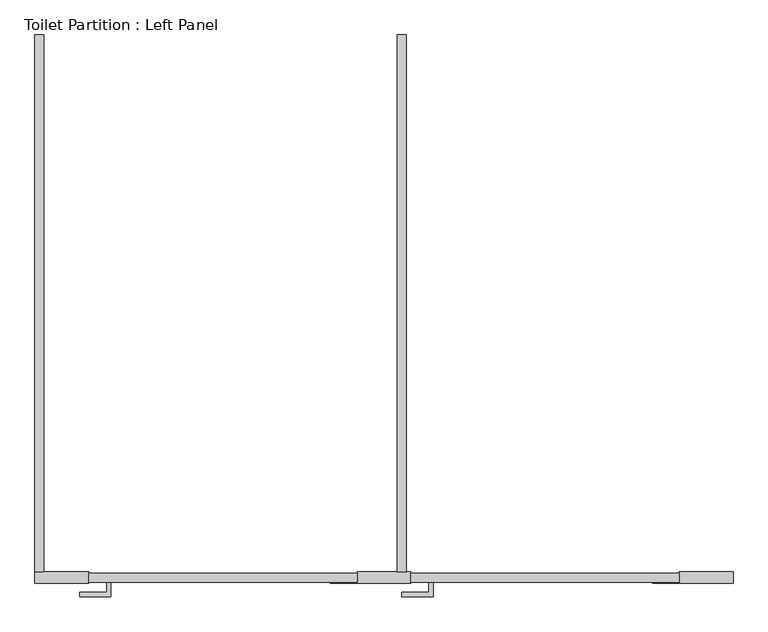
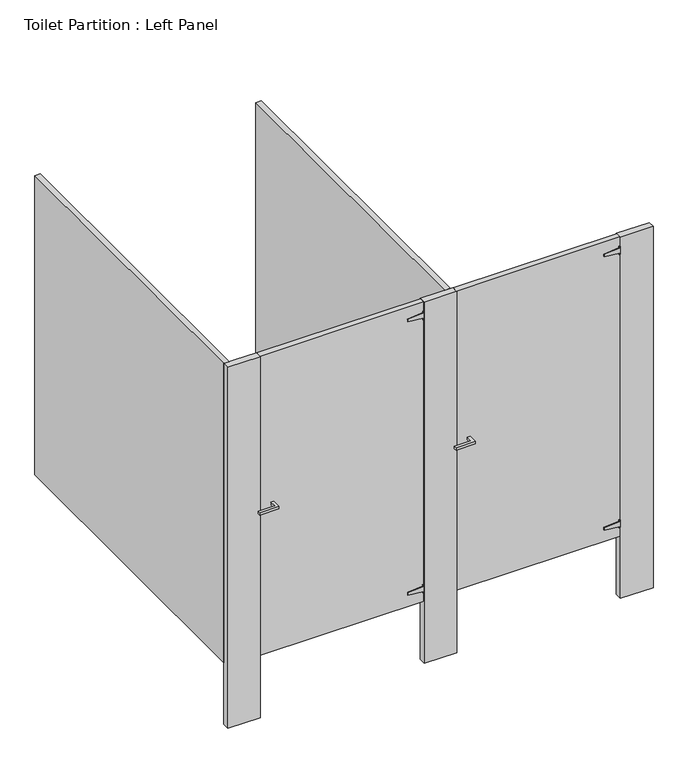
"""IFC4 building model written with IfcOpenShell, lengths in millimetres: proxy geometry, Toilet Partition : Left Panel."""

from ifc_helpers import new_model, si_unit, frame, origin, origin_with_axes, place, context, project, spatial, polyline, outline, extrude, source, transform, mapped, element, save


def toilet_partition_left_panel_86e2c154(model_context):
    return source(origin(), model_context, "Body", "SweptSolid", [
        extrude(outline(polyline([(-1066.8, 1555.75), (-1041.4, 1555.75), (-1041.4, 31.75), (-1066.8, 31.75), (-1066.8, 1555.75)])), frame((0.0, 0.0, 304.8), z_axis=(0.0, 0.0, 1.0), x_axis=(1.0, 0.0, 0.0)), (0.0, 0.0, 1.0), 1473.2),
        extrude(outline(polyline([(50.8, 3.175), (63.5, 3.175), (63.5, -38.1), (-25.4, -38.1), (-25.4, -25.4), (50.8, -25.4), (50.8, 3.175)])), frame((0.0, 0.0, 1028.7), z_axis=(0.0, 0.0, 1.0), x_axis=(1.0, 0.0, 0.0)), (0.0, 0.0, 1.0), 12.7),
        extrude(outline(polyline([(1708.4666362, 685.8), (1702.355553, 755.65), (1695.45, 755.65), (1695.45, 762.0), (1733.55, 762.0), (1733.55, 755.65), (1726.644447, 755.65), (1720.5333638, 685.8), (1708.4666362, 685.8)])), frame((0.0, 0.0, 0.0), z_axis=(0.0, 1.0, 0.0), x_axis=(0.0, 0.0, 1.0)), (0.0, 0.0, 1.0), 3.175),
        extrude(outline(polyline([(374.3333638, 685.8), (362.2666362, 685.8), (356.155553, 755.65), (349.25, 755.65), (349.25, 762.0), (387.35, 762.0), (387.35, 755.65), (380.444447, 755.65), (374.3333638, 685.8)])), frame((0.0, 0.0, 0.0), z_axis=(0.0, 1.0, 0.0), x_axis=(0.0, 0.0, 1.0)), (0.0, 0.0, 1.0), 3.175),
        extrude(outline(polyline([(762.0, 3.175), (0.0, 3.175), (0.0, 28.575), (762.0, 28.575), (762.0, 3.175)])), frame((0.0, 0.0, 304.8), z_axis=(0.0, 0.0, 1.0), x_axis=(1.0, 0.0, 0.0)), (0.0, 0.0, 1.0), 1473.2),
        extrude(outline(polyline([(914.4, 0.0), (762.0, 0.0), (762.0, 31.75), (914.4, 31.75), (914.4, 0.0)])), origin_with_axes(), (0.0, 0.0, 1.0), 1778.0),
        extrude(outline(polyline([(-38.1, 1555.75), (-12.7, 1555.75), (-12.7, 31.75), (-38.1, 31.75), (-38.1, 1555.75)])), frame((0.0, 0.0, 304.8), z_axis=(0.0, 0.0, 1.0), x_axis=(1.0, 0.0, 0.0)), (0.0, 0.0, 1.0), 1473.2),
        extrude(outline(polyline([(-863.6, 3.175), (-850.9, 3.175), (-850.9, -38.1), (-939.8, -38.1), (-939.8, -25.4), (-863.6, -25.4), (-863.6, 3.175)])), frame((0.0, 0.0, 1028.7), z_axis=(0.0, 0.0, 1.0), x_axis=(1.0, 0.0, 0.0)), (0.0, 0.0, 1.0), 12.7),
        extrude(outline(polyline([(1708.4666362, -228.6), (1702.355553, -158.75), (1695.45, -158.75), (1695.45, -152.4), (1733.55, -152.4), (1733.55, -158.75), (1726.644447, -158.75), (1720.5333638, -228.6), (1708.4666362, -228.6)])), frame((0.0, 0.0, 0.0), z_axis=(0.0, 1.0, 0.0), x_axis=(0.0, 0.0, 1.0)), (0.0, 0.0, 1.0), 3.175),
        extrude(outline(polyline([(374.3333638, -228.6), (362.2666362, -228.6), (356.155553, -158.75), (349.25, -158.75), (349.25, -152.4), (387.35, -152.4), (387.35, -158.75), (380.444447, -158.75), (374.3333638, -228.6)])), frame((0.0, 0.0, 0.0), z_axis=(0.0, 1.0, 0.0), x_axis=(0.0, 0.0, 1.0)), (0.0, 0.0, 1.0), 3.175),
        extrude(outline(polyline([(-152.4, 3.175), (-914.4, 3.175), (-914.4, 28.575), (-152.4, 28.575), (-152.4, 3.175)])), frame((0.0, 0.0, 304.8), z_axis=(0.0, 0.0, 1.0), x_axis=(1.0, 0.0, 0.0)), (0.0, 0.0, 1.0), 1473.2),
        extrude(outline(polyline([(0.0, 0.0), (-152.4, 0.0), (-152.4, 31.75), (0.0, 31.75), (0.0, 0.0)])), origin_with_axes(), (0.0, 0.0, 1.0), 1778.0),
        extrude(outline(polyline([(-914.4, 0.0), (-1066.8, 0.0), (-1066.8, 31.75), (-914.4, 31.75), (-914.4, 0.0)])), origin_with_axes(), (0.0, 0.0, 1.0), 1778.0),
    ])


if __name__ == "__main__":
    model = new_model("IFC4")
    model_context = context("Model", 3, world=origin())
    ifc_project = project(units=[si_unit("LENGTHUNIT", "METRE", prefix="MILLI")], contexts=[model_context])
    site = spatial("IfcSite", under=ifc_project)
    building = spatial("IfcBuilding", under=site)
    placement = place(None, origin())
    toilet_partition_left_panel_shape = toilet_partition_left_panel_86e2c154(model_context)
    element("IfcBuildingElementProxy", 1, Name="Toilet Partition : Left Panel", ObjectType="Toilet Partition : Left Panel", at=placement, inside=building, context=model_context, shape_type="MappedRepresentation", body=[
        mapped(toilet_partition_left_panel_shape, transform((0.0, 0.0, 0.0), x_axis=(1.0, 0.0, 0.0), y_axis=(0.0, 1.0, 0.0), z_axis=(0.0, 0.0, 1.0))),
    ])
    save(model, "model.ifc")
